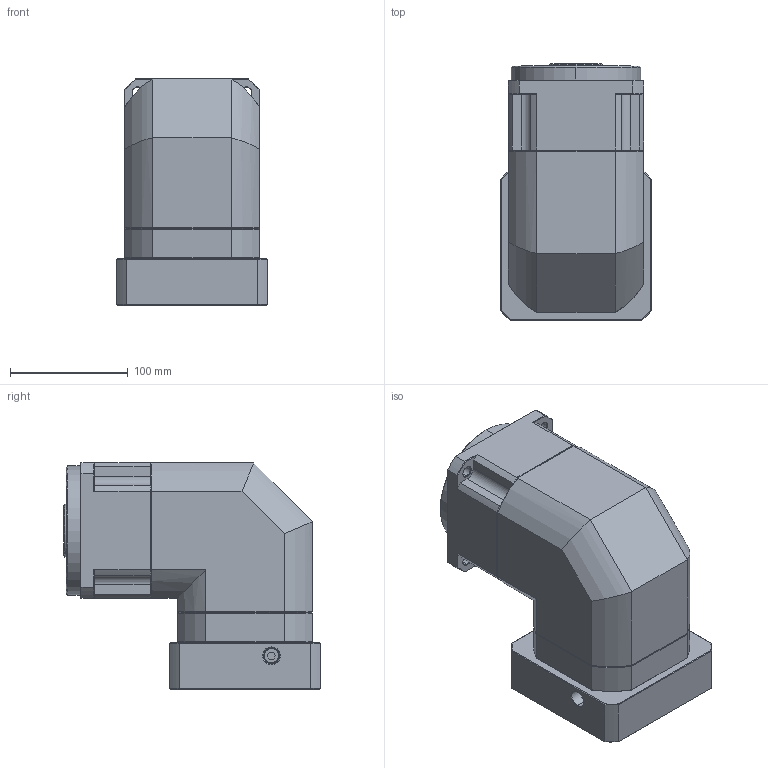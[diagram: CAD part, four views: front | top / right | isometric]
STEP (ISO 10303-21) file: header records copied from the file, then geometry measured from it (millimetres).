
FILE_DESCRIPTION (( 'STEP AP214' ), '1' );
FILE_NAME ('ZPBR115-K32-L1-P1-24-110-145-M8.step', '2024-06-29T08:12:50', ( 'Windows 蚚誧' ), ( 'Organization' ), 'SwSTEP 2.0', 'SolidWorks 2016', '' );
FILE_SCHEMA (( 'AUTOMOTIVE_DESIGN' ));
Length unit declared in the file: millimetre
Products named in the file (1): ZPBR115-K32-L1-P1-24-110-145-M8
Bounding box: 128 x 218 x 192.2 mm (x, y, z)
Surface area: 188537.3 mm2 (no closed solid volume)
Topology: 0 solids, 28 shells, 1790 faces, 4817 edges, 3090 vertices
Faces by surface type: plane 923, bspline 374, cone 264, cylinder 229
Entity records: 86356 total; most frequent: CARTESIAN_POINT 37846, ORIENTED_EDGE 9632, DIRECTION 7374, EDGE_CURVE 4817, LINE 3154, VECTOR 3154, VERTEX_POINT 3090, AXIS2_PLACEMENT_3D 2110
